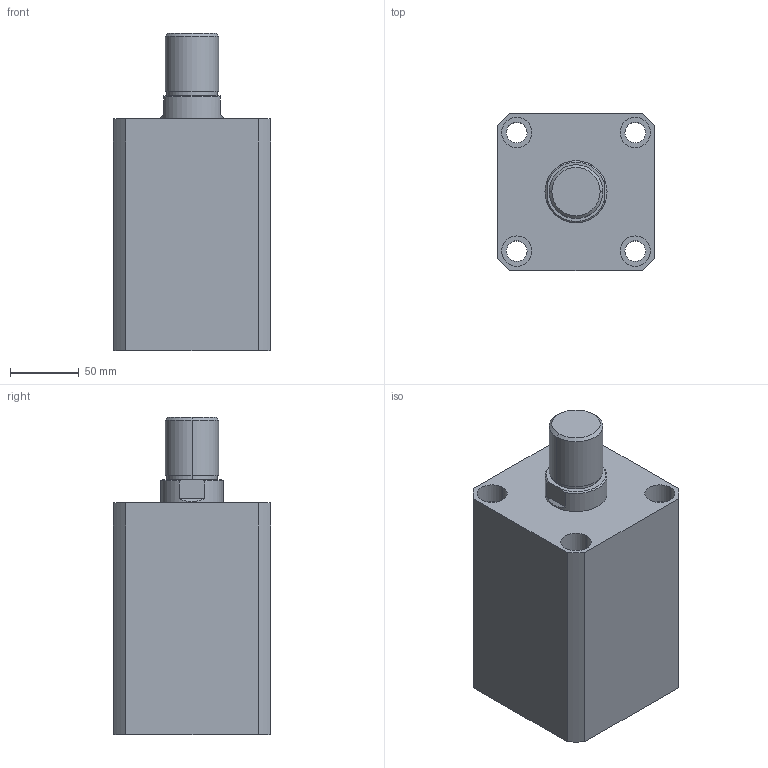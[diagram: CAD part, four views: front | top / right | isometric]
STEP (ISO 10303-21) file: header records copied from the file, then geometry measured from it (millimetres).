
FILE_DESCRIPTION (( 'STEP AP203' ), '1' );
FILE_NAME ('HTB-SDMB80-90W.STEP', '2019-10-09T06:13:46', ( '微软用户' ), ( '微软中国' ), 'SwSTEP 2.0', 'SolidWorks 2012', '' );
FILE_SCHEMA (( 'CONFIG_CONTROL_DESIGN' ));
Length unit declared in the file: millimetre
Products named in the file (3): HTB-SDMB80-90W; HTB-SDMB80-90掛极; HTB-SDMB80-90W活塞杆
Assembly tree (2 placements, depth 2):
  HTB-SDMB80-90W
    HTB-SDMB80-90掛极
    HTB-SDMB80-90W活塞杆
Bounding box: 114 x 114 x 230 mm (x, y, z)
Volume: 1783151.7 mm3; surface area: 216931 mm2
Topology: 2 solids, 2 shells, 141 faces, 337 edges, 222 vertices
Faces by surface type: plane 67, cylinder 48, bspline 16, torus 6, cone 4
Entity records: 5180 total; most frequent: CARTESIAN_POINT 1597, ORIENTED_EDGE 674, DIRECTION 669, EDGE_CURVE 337, AXIS2_PLACEMENT_3D 242, VERTEX_POINT 222, LINE 185, VECTOR 185
